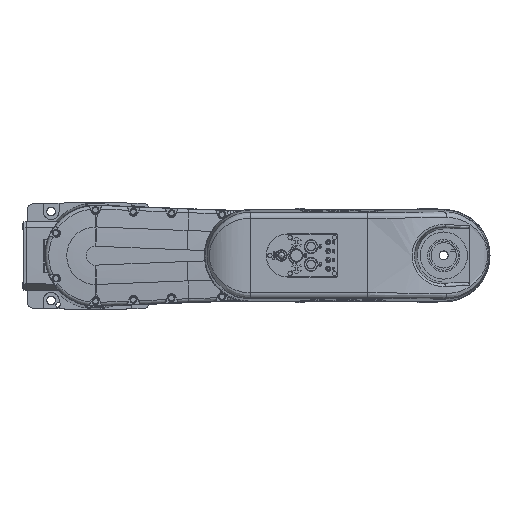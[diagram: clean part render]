
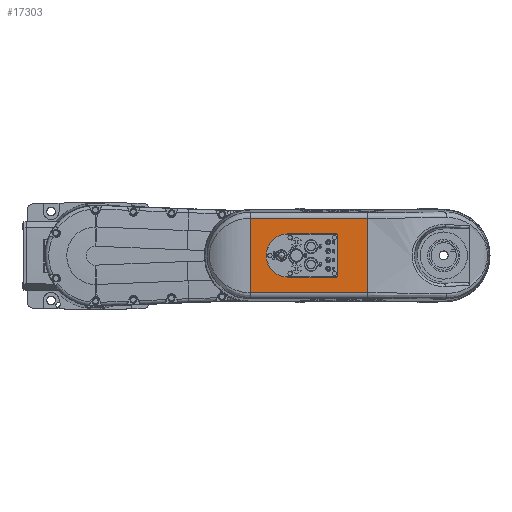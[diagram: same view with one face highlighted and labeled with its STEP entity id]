
A CAD part, top view. The second image highlights one B-rep face of the part: STEP entity #17303.
In plain terms, the highlighted planar face has unit normal (0, 0, 1).
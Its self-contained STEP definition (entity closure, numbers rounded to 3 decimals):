
#920 = LINE ( 'NONE', #9007, #63898 ) ;
#1382 = ORIENTED_EDGE ( 'NONE', *, *, #72215, .F. ) ;
#2065 = CARTESIAN_POINT ( 'NONE',  ( 380.501, -34., 457.7 ) ) ;
#7630 = CARTESIAN_POINT ( 'NONE',  ( 430., -705.455, 457.7 ) ) ;
#7723 = VERTEX_POINT ( 'NONE', #71092 ) ;
#9007 = CARTESIAN_POINT ( 'NONE',  ( 382.5, 34., 457.7 ) ) ;
#9123 = CARTESIAN_POINT ( 'NONE',  ( 303.5, -34., 457.7 ) ) ;
#9223 = CARTESIAN_POINT ( 'NONE',  ( 382.5, -33.172, 457.7 ) ) ;
#9682 = EDGE_CURVE ( 'NONE', #68174, #76593, #93634, .T. ) ;
#11468 = CARTESIAN_POINT ( 'NONE',  ( 245., 59.156, 457.7 ) ) ;
#14024 = AXIS2_PLACEMENT_3D ( 'NONE', #43331, #88037, #37586 ) ;
#14607 = CARTESIAN_POINT ( 'NONE',  ( 430., -59.156, 457.7 ) ) ;
#17303 = ADVANCED_FACE ( 'NONE', ( #22334, #36677 ), #87576, .T. ) ;
#17999 = VECTOR ( 'NONE', #60935, 1000. ) ;
#18059 = LINE ( 'NONE', #39506, #29815 ) ;
#19016 = DIRECTION ( 'NONE',  ( 0., 1., 0. ) ) ;
#19575 = CARTESIAN_POINT ( 'NONE',  ( 382.5, 32.001, 457.7 ) ) ;
#19768 = ORIENTED_EDGE ( 'NONE', *, *, #25901, .T. ) ;
#20869 = EDGE_CURVE ( 'NONE', #78540, #7723, #22832, .T. ) ;
#21030 = VERTEX_POINT ( 'NONE', #92491 ) ;
#21335 = VECTOR ( 'NONE', #36701, 1000. ) ;
#22334 = FACE_BOUND ( 'NONE', #90278, .T. ) ;
#22570 = CARTESIAN_POINT ( 'NONE',  ( 381.672, -34., 457.7 ) ) ;
#22832 =( BOUNDED_CURVE ( )  B_SPLINE_CURVE ( 3, ( #23043, #9223, #22570, #2065 ),
 .UNSPECIFIED., .F., .F. ) 
 B_SPLINE_CURVE_WITH_KNOTS ( ( 4, 4 ),
 ( 2.357, 3.927 ),
 .UNSPECIFIED. ) 
 CURVE ( )  GEOMETRIC_REPRESENTATION_ITEM ( )  RATIONAL_B_SPLINE_CURVE ( ( 1., 0.805, 0.805, 1. ) ) 
 REPRESENTATION_ITEM ( '' )  );
#23043 = CARTESIAN_POINT ( 'NONE',  ( 382.5, -32.001, 457.7 ) ) ;
#25810 = EDGE_CURVE ( 'NONE', #21030, #70691, #41798, .T. ) ;
#25901 = EDGE_CURVE ( 'NONE', #76593, #48900, #86680, .T. ) ;
#27302 = EDGE_CURVE ( 'NONE', #78540, #70691, #61401, .T. ) ;
#27908 = ORIENTED_EDGE ( 'NONE', *, *, #25810, .T. ) ;
#29133 = ORIENTED_EDGE ( 'NONE', *, *, #34063, .F. ) ;
#29477 = CARTESIAN_POINT ( 'NONE',  ( 303.5, 34., 457.7 ) ) ;
#29815 = VECTOR ( 'NONE', #47106, 1000. ) ;
#30001 = DIRECTION ( 'NONE',  ( -1., 0., 0. ) ) ;
#32101 = CARTESIAN_POINT ( 'NONE',  ( 380.501, 34., 457.7 ) ) ;
#34063 = EDGE_CURVE ( 'NONE', #70659, #7723, #51897, .T. ) ;
#36677 = FACE_OUTER_BOUND ( 'NONE', #53143, .T. ) ;
#36701 = DIRECTION ( 'NONE',  ( 0., 1., 0. ) ) ;
#36705 = DIRECTION ( 'NONE',  ( 1., 0., 0. ) ) ;
#37586 = DIRECTION ( 'NONE',  ( 1., 0., 0. ) ) ;
#37859 = EDGE_CURVE ( 'NONE', #68174, #59705, #59991, .T. ) ;
#39506 = CARTESIAN_POINT ( 'NONE',  ( 245., 59.156, 457.7 ) ) ;
#40332 = ORIENTED_EDGE ( 'NONE', *, *, #37859, .F. ) ;
#40908 = DIRECTION ( 'NONE',  ( 0., 0., 1. ) ) ;
#41798 =( BOUNDED_CURVE ( )  B_SPLINE_CURVE ( 3, ( #32101, #61137, #84793, #19575 ),
 .UNSPECIFIED., .F., .F. ) 
 B_SPLINE_CURVE_WITH_KNOTS ( ( 4, 4 ),
 ( 2.357, 3.927 ),
 .UNSPECIFIED. ) 
 CURVE ( )  GEOMETRIC_REPRESENTATION_ITEM ( )  RATIONAL_B_SPLINE_CURVE ( ( 1., 0.805, 0.805, 1. ) ) 
 REPRESENTATION_ITEM ( '' )  );
#43120 = VECTOR ( 'NONE', #92692, 1000. ) ;
#43234 = CARTESIAN_POINT ( 'NONE',  ( 382.5, 32.001, 457.7 ) ) ;
#43331 = CARTESIAN_POINT ( 'NONE',  ( 245., 0., 457.7 ) ) ;
#44910 = ORIENTED_EDGE ( 'NONE', *, *, #20869, .T. ) ;
#45632 = CARTESIAN_POINT ( 'NONE',  ( 430., 59.156, 457.7 ) ) ;
#45707 = CARTESIAN_POINT ( 'NONE',  ( 245., -705.242, 457.7 ) ) ;
#47106 = DIRECTION ( 'NONE',  ( -1., 0., 0. ) ) ;
#48495 = ORIENTED_EDGE ( 'NONE', *, *, #73092, .T. ) ;
#48900 = VERTEX_POINT ( 'NONE', #45632 ) ;
#51897 = LINE ( 'NONE', #73324, #73857 ) ;
#53143 = EDGE_LOOP ( 'NONE', ( #19768, #48495, #40332, #69058 ) ) ;
#59705 = VERTEX_POINT ( 'NONE', #11468 ) ;
#59991 = LINE ( 'NONE', #45707, #17999 ) ;
#60712 = EDGE_CURVE ( 'NONE', #21030, #73881, #920, .T. ) ;
#60935 = DIRECTION ( 'NONE',  ( 0., 1., 0. ) ) ;
#61137 = CARTESIAN_POINT ( 'NONE',  ( 381.672, 34., 457.7 ) ) ;
#61401 = LINE ( 'NONE', #82358, #89313 ) ;
#61672 = ORIENTED_EDGE ( 'NONE', *, *, #27302, .F. ) ;
#62920 = CARTESIAN_POINT ( 'NONE',  ( 382.5, -32.001, 457.7 ) ) ;
#63898 = VECTOR ( 'NONE', #30001, 1000. ) ;
#66008 = CARTESIAN_POINT ( 'NONE',  ( 245., -59.156, 457.7 ) ) ;
#66177 = ORIENTED_EDGE ( 'NONE', *, *, #60712, .F. ) ;
#68174 = VERTEX_POINT ( 'NONE', #66008 ) ;
#68370 = CARTESIAN_POINT ( 'NONE',  ( 430., -59.156, 457.7 ) ) ;
#69058 = ORIENTED_EDGE ( 'NONE', *, *, #9682, .T. ) ;
#69281 = CIRCLE ( 'NONE', #73834, 34. ) ;
#70659 = VERTEX_POINT ( 'NONE', #9123 ) ;
#70691 = VERTEX_POINT ( 'NONE', #43234 ) ;
#71092 = CARTESIAN_POINT ( 'NONE',  ( 380.501, -34., 457.7 ) ) ;
#72215 = EDGE_CURVE ( 'NONE', #73881, #70659, #69281, .T. ) ;
#73092 = EDGE_CURVE ( 'NONE', #48900, #59705, #18059, .T. ) ;
#73324 = CARTESIAN_POINT ( 'NONE',  ( 382.5, -34., 457.7 ) ) ;
#73834 = AXIS2_PLACEMENT_3D ( 'NONE', #77079, #40908, #83748 ) ;
#73857 = VECTOR ( 'NONE', #36705, 1000. ) ;
#73881 = VERTEX_POINT ( 'NONE', #29477 ) ;
#76593 = VERTEX_POINT ( 'NONE', #68370 ) ;
#77079 = CARTESIAN_POINT ( 'NONE',  ( 303.5, 0., 457.7 ) ) ;
#78540 = VERTEX_POINT ( 'NONE', #62920 ) ;
#82358 = CARTESIAN_POINT ( 'NONE',  ( 382.5, 34., 457.7 ) ) ;
#83748 = DIRECTION ( 'NONE',  ( 0., 1., 0. ) ) ;
#84793 = CARTESIAN_POINT ( 'NONE',  ( 382.5, 33.172, 457.7 ) ) ;
#86680 = LINE ( 'NONE', #7630, #21335 ) ;
#87576 = PLANE ( 'NONE',  #14024 ) ;
#88037 = DIRECTION ( 'NONE',  ( 0., 0., 1. ) ) ;
#89313 = VECTOR ( 'NONE', #19016, 1000. ) ;
#90278 = EDGE_LOOP ( 'NONE', ( #66177, #27908, #61672, #44910, #29133, #1382 ) ) ;
#92491 = CARTESIAN_POINT ( 'NONE',  ( 380.501, 34., 457.7 ) ) ;
#92692 = DIRECTION ( 'NONE',  ( 1., 0., 0. ) ) ;
#93634 = LINE ( 'NONE', #14607, #43120 ) ;
